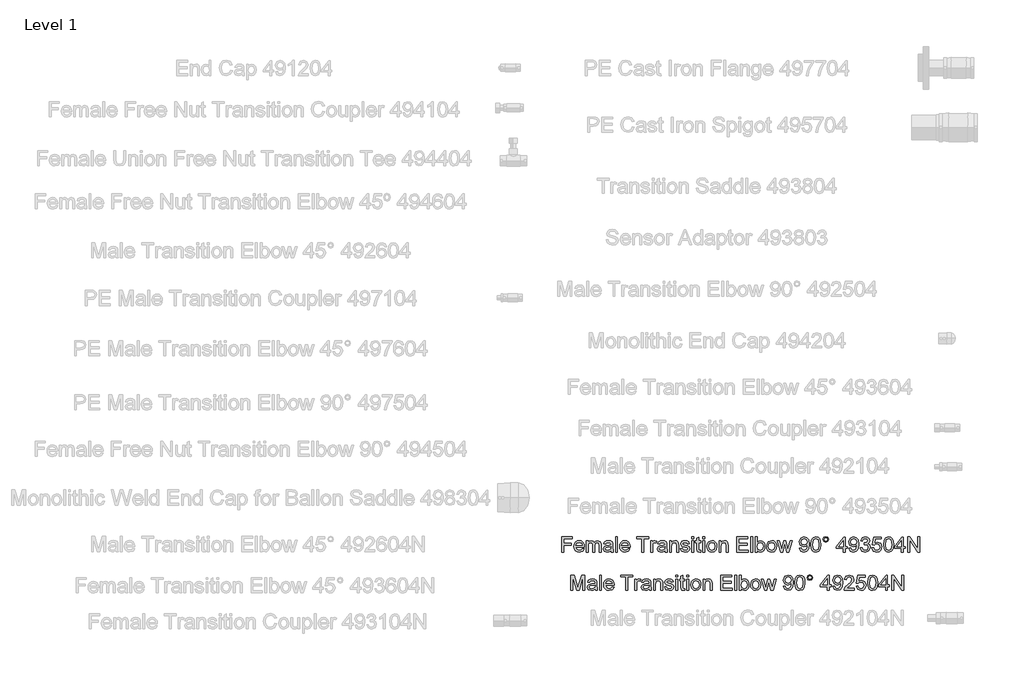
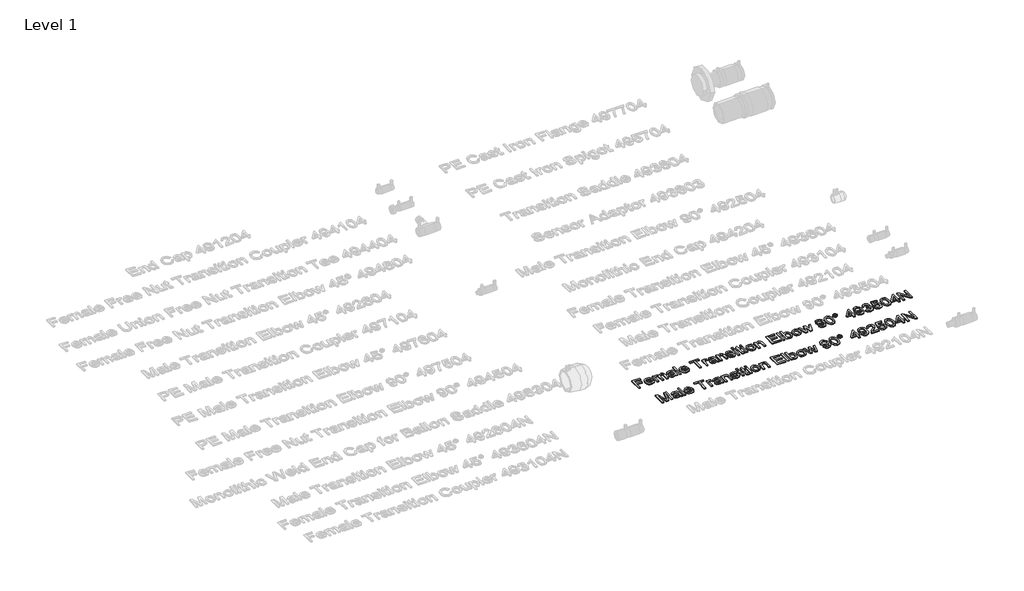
# One storey, part 25 of 38: 2 proxies.
"""IFC4 building model written with IfcOpenShell, lengths in millimetres."""

from ifc_helpers import new_model, si_unit, origin, origin_with_axes, place, context, project, spatial, polyline, outline, extrude, element, save

model = new_model("IFC4")

# Units and contexts
model_context = context("Model", 3, world=origin())
ifc_project = project(units=[si_unit("LENGTHUNIT", "METRE", prefix="MILLI")], contexts=[model_context])

# Site, building, storey
site = spatial("IfcSite", under=ifc_project)
building = spatial("IfcBuilding", under=site)
storey = spatial("IfcBuildingStorey", under=building, Name="Level 1", Elevation=0.0)

# Proxies
placement = place(None, origin())
element("IfcBuildingElementProxy", 1, Name="100 mm Arial", ObjectType="100 mm Arial", at=placement, inside=storey, context=model_context, shape_type="SweptSolid", body=[
    extrude(outline(polyline([(17522.9136045, 3233.0274597), (17522.9136045, 3292.1043828), (17562.6059122, 3292.1043828), (17562.6059122, 3284.7197674), (17530.2982199, 3284.7197674), (17530.2982199, 3267.1813059), (17557.9905276, 3267.1813059), (17557.9905276, 3259.7966905), (17530.2982199, 3259.7966905), (17530.2982199, 3233.0274597), (17522.9136045, 3233.0274597)])), origin_with_axes(), (0.0, 0.0, 1.0), 5.0),
    extrude(outline(polyline([(17602.2116814, 3245.9505366), (17609.4520661, 3245.0274597), (17602.6804314, 3235.4938059), (17590.0674507, 3232.1043828), (17581.4027872, 3233.5665222), (17574.7357199, 3237.9529405), (17570.484518, 3244.9787818), (17569.0674507, 3254.3591905), (17570.4989411, 3264.0551039), (17574.7934122, 3271.3063059), (17581.3703353, 3275.8279405), (17589.6491814, 3277.335152), (17597.6702151, 3275.8315463), (17604.0794699, 3271.3207289), (17608.2819939, 3264.0839501), (17609.6828353, 3254.4024597), (17609.6395661, 3252.4120751), (17576.4520661, 3252.4120751), (17580.6996622, 3242.8207289), (17590.2116814, 3239.4889982), (17597.4520661, 3241.0322674), (17602.2116814, 3245.9505366)]), holes=[polyline([(17576.4520661, 3259.7966905), (17602.2982199, 3259.7966905), (17599.3414891, 3266.4889982), (17589.6203353, 3269.9505366), (17580.5265853, 3267.1885174), (17576.4520661, 3259.7966905)])]), origin_with_axes(), (0.0, 0.0, 1.0), 5.0),
    extrude(outline(polyline([(17617.0674507, 3233.0274597), (17617.0674507, 3276.4120751), (17624.4520661, 3276.4120751), (17624.4520661, 3269.272652), (17629.5289891, 3275.1212097), (17636.7549507, 3277.335152), (17644.1539891, 3275.0779405), (17648.2212968, 3268.7534213), (17653.9833161, 3275.1897193), (17661.2597584, 3277.335152), (17670.9160084, 3273.7654405), (17674.2982199, 3262.7678443), (17674.2982199, 3233.0274597), (17666.9136045, 3233.0274597), (17666.9136045, 3259.5947674), (17666.2285084, 3265.7606328), (17663.7477391, 3268.7966905), (17659.5289891, 3269.9505366), (17652.2669699, 3266.9938059), (17649.375143, 3257.5178443), (17649.375143, 3233.0274597), (17641.9905276, 3233.0274597), (17641.9905276, 3260.4168828), (17640.281393, 3267.5707289), (17634.6780276, 3269.9505366), (17629.2116814, 3268.3639982), (17625.5770661, 3263.7197674), (17624.4520661, 3254.9072674), (17624.4520661, 3233.0274597), (17617.0674507, 3233.0274597)])), origin_with_axes(), (0.0, 0.0, 1.0), 5.0),
    extrude(outline(polyline([(17713.0674507, 3238.5659213), (17705.906393, 3233.5611136), (17697.9953353, 3232.1043828), (17687.2717776, 3235.6091905), (17683.5289891, 3244.5659213), (17684.9424507, 3250.4072674), (17688.656393, 3254.647652), (17693.8270661, 3257.0707289), (17700.2164891, 3258.1813059), (17713.0241814, 3260.7197674), (17713.0674507, 3262.3639982), (17711.0337968, 3267.8159213), (17702.8703353, 3269.9505366), (17695.3991814, 3268.5298636), (17691.8366814, 3263.4889982), (17684.4520661, 3264.4120751), (17687.6467776, 3271.6236136), (17694.0794699, 3275.8495751), (17703.8222584, 3277.335152), (17712.7717776, 3276.022652), (17717.8270661, 3272.7269789), (17720.0914891, 3267.7149597), (17720.4520661, 3261.2534213), (17720.4520661, 3252.0659213), (17720.8270661, 3239.2365943), (17722.2982199, 3233.0274597), (17714.9136045, 3233.0274597), (17713.0674507, 3238.5659213)]), holes=[polyline([(17713.0674507, 3253.335152), (17701.1539891, 3251.0707289), (17694.8006237, 3249.8736136), (17691.9232199, 3247.9264982), (17690.9136045, 3245.085152), (17693.1131237, 3241.0899597), (17699.5674507, 3239.4889982), (17707.0386045, 3241.2558251), (17711.8559122, 3245.5322674), (17713.0241814, 3251.2438059), (17713.0674507, 3253.335152)])]), origin_with_axes(), (0.0, 0.0, 1.0), 5.0),
    extrude(outline(polyline([(17730.6059122, 3233.0274597), (17730.6059122, 3292.1043828), (17737.9905276, 3292.1043828), (17737.9905276, 3233.0274597), (17730.6059122, 3233.0274597)])), origin_with_axes(), (0.0, 0.0, 1.0), 5.0),
    extrude(outline(polyline([(17779.4424507, 3245.9505366), (17786.6828353, 3245.0274597), (17779.9112007, 3235.4938059), (17767.2982199, 3232.1043828), (17758.6335564, 3233.5665222), (17751.9664891, 3237.9529405), (17747.7152872, 3244.9787818), (17746.2982199, 3254.3591905), (17747.7297103, 3264.0551039), (17752.0241814, 3271.3063059), (17758.6011045, 3275.8279405), (17766.8799507, 3277.335152), (17774.9009843, 3275.8315463), (17781.3102391, 3271.3207289), (17785.5127632, 3264.0839501), (17786.9136045, 3254.4024597), (17786.8703353, 3252.4120751), (17753.6828353, 3252.4120751), (17757.9304314, 3242.8207289), (17767.4424507, 3239.4889982), (17774.6828353, 3241.0322674), (17779.4424507, 3245.9505366)]), holes=[polyline([(17753.6828353, 3259.7966905), (17779.5289891, 3259.7966905), (17776.5722584, 3266.4889982), (17766.8511045, 3269.9505366), (17757.7573545, 3267.1885174), (17753.6828353, 3259.7966905)])]), origin_with_axes(), (0.0, 0.0, 1.0), 5.0),
    extrude(outline(polyline([(17833.0674507, 3233.0274597), (17833.0674507, 3284.7197674), (17813.6828353, 3284.7197674), (17813.6828353, 3292.1043828), (17859.8366814, 3292.1043828), (17859.8366814, 3284.7197674), (17840.4520661, 3284.7197674), (17840.4520661, 3233.0274597), (17833.0674507, 3233.0274597)])), origin_with_axes(), (0.0, 0.0, 1.0), 5.0),
    extrude(outline(polyline([(17867.2212968, 3233.0274597), (17867.2212968, 3276.4120751), (17873.6828353, 3276.4120751), (17873.6828353, 3269.9938059), (17878.2693737, 3275.9072674), (17882.8847584, 3277.335152), (17890.2982199, 3275.0563059), (17887.8318737, 3268.4361136), (17882.6395661, 3269.9505366), (17878.4640853, 3268.4938059), (17875.8030276, 3264.4553443), (17874.6059122, 3255.8303443), (17874.6059122, 3233.0274597), (17867.2212968, 3233.0274597)])), origin_with_axes(), (0.0, 0.0, 1.0), 5.0),
    extrude(outline(polyline([(17922.6059122, 3238.5659213), (17915.4448545, 3233.5611136), (17907.5337968, 3232.1043828), (17896.8102391, 3235.6091905), (17893.0674507, 3244.5659213), (17894.4809122, 3250.4072674), (17898.1948545, 3254.647652), (17903.3655276, 3257.0707289), (17909.7549507, 3258.1813059), (17922.562643, 3260.7197674), (17922.6059122, 3262.3639982), (17920.5722584, 3267.8159213), (17912.4087968, 3269.9505366), (17904.937643, 3268.5298636), (17901.375143, 3263.4889982), (17893.9905276, 3264.4120751), (17897.1852391, 3271.6236136), (17903.6179314, 3275.8495751), (17913.3607199, 3277.335152), (17922.3102391, 3276.022652), (17927.3655276, 3272.7269789), (17929.6299507, 3267.7149597), (17929.9905276, 3261.2534213), (17929.9905276, 3252.0659213), (17930.3655276, 3239.2365943), (17931.8366814, 3233.0274597), (17924.4520661, 3233.0274597), (17922.6059122, 3238.5659213)]), holes=[polyline([(17922.6059122, 3253.335152), (17910.6924507, 3251.0707289), (17904.3390853, 3249.8736136), (17901.4616814, 3247.9264982), (17900.4520661, 3245.085152), (17902.6515853, 3241.0899597), (17909.1059122, 3239.4889982), (17916.5770661, 3241.2558251), (17921.3943737, 3245.5322674), (17922.562643, 3251.2438059), (17922.6059122, 3253.335152)])]), origin_with_axes(), (0.0, 0.0, 1.0), 5.0),
    extrude(outline(polyline([(17940.1443737, 3233.0274597), (17940.1443737, 3276.4120751), (17947.5289891, 3276.4120751), (17947.5289891, 3270.3543828), (17953.1756237, 3275.5899597), (17960.8847584, 3277.335152), (17967.8583161, 3275.928902), (17972.6179314, 3272.2365943), (17974.8318737, 3266.8063059), (17975.2212968, 3259.6668828), (17975.2212968, 3233.0274597), (17967.8366814, 3233.0274597), (17967.8366814, 3258.6716905), (17966.9857199, 3265.2053443), (17963.9785084, 3268.6596713), (17958.9087968, 3269.9505366), (17950.8967776, 3267.0514982), (17947.5289891, 3256.0466905), (17947.5289891, 3233.0274597), (17940.1443737, 3233.0274597)])), origin_with_axes(), (0.0, 0.0, 1.0), 5.0),
    extrude(outline(polyline([(17982.6059122, 3245.9505366), (17989.9905276, 3246.8736136), (17993.4087968, 3241.3928443), (18001.2405276, 3239.4889982), (18008.7693737, 3241.2341905), (18011.2212968, 3245.3303443), (18008.7549507, 3248.647652), (18001.1539891, 3250.7534213), (17990.0337968, 3254.366402), (17985.1804314, 3258.585152), (17983.5289891, 3264.5418828), (17984.8559122, 3270.0442866), (17988.4761045, 3274.2486136), (17993.1708161, 3276.4337097), (17999.5241814, 3277.335152), (18008.5097584, 3275.8856328), (18014.2212968, 3271.9625559), (18016.7597584, 3265.335152), (18009.375143, 3264.4120751), (18006.5987007, 3268.4865943), (18000.1011045, 3269.9505366), (17993.0337968, 3268.5514982), (17990.9136045, 3265.2918828), (17991.7934122, 3263.1428443), (17994.5482199, 3261.5130366), (18000.9087968, 3259.9409213), (18011.7477391, 3256.4649597), (18016.781393, 3252.5274597), (18018.6059122, 3246.1091905), (18016.4640853, 3239.0418828), (18010.2837968, 3233.9144789), (18001.1395661, 3232.1043828), (17988.2597584, 3235.5947674), (17982.6059122, 3245.9505366)])), origin_with_axes(), (0.0, 0.0, 1.0), 5.0),
    extrude(outline(polyline([(18026.9136045, 3233.0274597), (18026.9136045, 3276.4120751), (18034.2982199, 3276.4120751), (18034.2982199, 3233.0274597), (18026.9136045, 3233.0274597)])), origin_with_axes(), (0.0, 0.0, 1.0), 5.0),
    extrude(outline(polyline([(18026.9136045, 3284.7197674), (18026.9136045, 3292.1043828), (18034.2982199, 3292.1043828), (18034.2982199, 3284.7197674), (18026.9136045, 3284.7197674)])), origin_with_axes(), (0.0, 0.0, 1.0), 5.0),
    extrude(outline(polyline([(18061.0674507, 3239.1861136), (18061.9905276, 3232.8111136), (18056.4664891, 3232.1043828), (18050.2789891, 3233.3303443), (18047.1924507, 3236.5466905), (18046.2982199, 3244.9264982), (18046.2982199, 3269.0274597), (18040.7597584, 3269.0274597), (18040.7597584, 3276.4120751), (18046.2982199, 3276.4120751), (18046.2982199, 3286.9553443), (18053.6828353, 3291.2966905), (18053.6828353, 3276.4120751), (18061.0674507, 3276.4120751), (18061.0674507, 3269.0274597), (18053.6828353, 3269.0274597), (18053.6828353, 3245.1428443), (18054.0722584, 3241.335152), (18055.3342776, 3239.9865943), (18057.8511045, 3239.4889982), (18061.0674507, 3239.1861136)])), origin_with_axes(), (0.0, 0.0, 1.0), 5.0),
    extrude(outline(polyline([(18068.4520661, 3233.0274597), (18068.4520661, 3276.4120751), (18075.8366814, 3276.4120751), (18075.8366814, 3233.0274597), (18068.4520661, 3233.0274597)])), origin_with_axes(), (0.0, 0.0, 1.0), 5.0),
    extrude(outline(polyline([(18068.4520661, 3284.7197674), (18068.4520661, 3292.1043828), (18075.8366814, 3292.1043828), (18075.8366814, 3284.7197674), (18068.4520661, 3284.7197674)])), origin_with_axes(), (0.0, 0.0, 1.0), 5.0),
    extrude(outline(polyline([(18085.0674507, 3254.7197674), (18086.6648064, 3265.1801039), (18091.4568737, 3272.5322674), (18104.4664891, 3277.335152), (18112.2243016, 3275.8730126), (18118.4208161, 3271.4865943), (18122.4827151, 3264.5220511), (18123.8366814, 3255.3255366), (18121.4424507, 3242.1861136), (18114.468893, 3234.7510174), (18104.4664891, 3232.1043828), (18096.6149266, 3233.5611136), (18090.4256237, 3237.9313059), (18086.4069939, 3245.0418828), (18085.0674507, 3254.7197674)]), holes=[polyline([(18092.4520661, 3254.7341905), (18095.8703353, 3243.2894789), (18104.4664891, 3239.4889982), (18113.0337968, 3243.3111136), (18116.4520661, 3254.9649597), (18113.0121622, 3266.1500559), (18104.4664891, 3269.9505366), (18095.8703353, 3266.1644789), (18092.4520661, 3254.7341905)])]), origin_with_axes(), (0.0, 0.0, 1.0), 5.0),
    extrude(outline(polyline([(18132.1443737, 3233.0274597), (18132.1443737, 3276.4120751), (18139.5289891, 3276.4120751), (18139.5289891, 3270.3543828), (18145.1756237, 3275.5899597), (18152.8847584, 3277.335152), (18159.8583161, 3275.928902), (18164.6179314, 3272.2365943), (18166.8318737, 3266.8063059), (18167.2212968, 3259.6668828), (18167.2212968, 3233.0274597), (18159.8366814, 3233.0274597), (18159.8366814, 3258.6716905), (18158.9857199, 3265.2053443), (18155.9785084, 3268.6596713), (18150.9087968, 3269.9505366), (18142.8967776, 3267.0514982), (18139.5289891, 3256.0466905), (18139.5289891, 3233.0274597), (18132.1443737, 3233.0274597)])), origin_with_axes(), (0.0, 0.0, 1.0), 5.0),
    extrude(outline(polyline([(18201.375143, 3233.0274597), (18201.375143, 3292.1043828), (18243.8366814, 3292.1043828), (18243.8366814, 3284.7197674), (18208.7597584, 3284.7197674), (18208.7597584, 3267.1813059), (18241.9905276, 3267.1813059), (18241.9905276, 3259.7966905), (18208.7597584, 3259.7966905), (18208.7597584, 3240.4120751), (18244.7597584, 3240.4120751), (18244.7597584, 3233.0274597), (18201.375143, 3233.0274597)])), origin_with_axes(), (0.0, 0.0, 1.0), 5.0),
    extrude(outline(polyline([(18254.9136045, 3233.0274597), (18254.9136045, 3292.1043828), (18262.2982199, 3292.1043828), (18262.2982199, 3233.0274597), (18254.9136045, 3233.0274597)])), origin_with_axes(), (0.0, 0.0, 1.0), 5.0),
    extrude(outline(polyline([(18280.7597584, 3233.0274597), (18273.375143, 3233.0274597), (18273.375143, 3292.1043828), (18280.7597584, 3292.1043828), (18280.7597584, 3270.1957289), (18285.9304314, 3275.5502963), (18292.3559122, 3277.335152), (18299.7549507, 3275.7269789), (18305.4953353, 3271.2053443), (18309.0217776, 3264.1740943), (18310.2982199, 3255.3688059), (18308.9767055, 3245.5106328), (18305.0121622, 3238.1764982), (18299.1942536, 3233.6224116), (18292.312643, 3232.1043828), (18285.7465372, 3234.0623155), (18280.7597584, 3239.9361136), (18280.7597584, 3233.0274597)]), holes=[polyline([(18280.7597584, 3255.022652), (18282.7789891, 3244.6957289), (18291.6780276, 3239.4889982), (18299.5818737, 3243.3255366), (18302.9136045, 3254.7630366), (18299.718893, 3266.2438059), (18291.9953353, 3269.9505366), (18284.0914891, 3266.1139982), (18280.7597584, 3255.022652)])]), origin_with_axes(), (0.0, 0.0, 1.0), 5.0),
    extrude(outline(polyline([(18316.7597584, 3254.7197674), (18318.3571141, 3265.1801039), (18323.1491814, 3272.5322674), (18336.1587968, 3277.335152), (18343.9166093, 3275.8730126), (18350.1131237, 3271.4865943), (18354.1750228, 3264.5220511), (18355.5289891, 3255.3255366), (18353.1347584, 3242.1861136), (18346.1612007, 3234.7510174), (18336.1587968, 3232.1043828), (18328.3072343, 3233.5611136), (18322.1179314, 3237.9313059), (18318.0993016, 3245.0418828), (18316.7597584, 3254.7197674)]), holes=[polyline([(18324.1443737, 3254.7341905), (18327.562643, 3243.2894789), (18336.1587968, 3239.4889982), (18344.7261045, 3243.3111136), (18348.1443737, 3254.9649597), (18344.7044699, 3266.1500559), (18336.1587968, 3269.9505366), (18327.562643, 3266.1644789), (18324.1443737, 3254.7341905)])]), origin_with_axes(), (0.0, 0.0, 1.0), 5.0),
    extrude(outline(polyline([(18371.0337968, 3233.0274597), (18357.8366814, 3276.4120751), (18365.5097584, 3276.4120751), (18372.9953353, 3251.0995751), (18375.2309122, 3242.0563059), (18377.062643, 3250.7678443), (18383.0193737, 3276.4120751), (18391.8174507, 3276.4120751), (18397.7453353, 3250.8399597), (18399.375143, 3242.9505366), (18401.7116814, 3251.272652), (18409.2116814, 3276.4120751), (18416.9136045, 3276.4120751), (18403.6155276, 3233.0274597), (18394.687643, 3233.0274597), (18389.0193737, 3258.4697674), (18387.375143, 3266.4024597), (18380.062643, 3233.0274597), (18371.0337968, 3233.0274597)])), origin_with_axes(), (0.0, 0.0, 1.0), 5.0),
    extrude(outline(polyline([(18444.1443737, 3247.7966905), (18451.5289891, 3248.7197674), (18454.8462968, 3241.6740943), (18461.1347584, 3239.4889982), (18467.1131237, 3240.8952482), (18471.1660084, 3244.6524597), (18473.5818737, 3251.0707289), (18474.6491814, 3259.6380366), (18468.6996622, 3255.4841905), (18460.6011045, 3253.335152), (18448.2621622, 3258.585152), (18443.2212968, 3272.4168828), (18448.5073545, 3286.6957289), (18461.7549507, 3292.1043828), (18472.2765853, 3289.0178443), (18479.5169699, 3280.2197674), (18481.9905276, 3263.6909213), (18479.5241814, 3245.7558251), (18472.1900468, 3235.5947674), (18460.7886045, 3232.1043828), (18449.437643, 3236.2221713), (18444.1443737, 3247.7966905)]), holes=[polyline([(18474.6059122, 3272.5899597), (18471.4184122, 3281.4457289), (18462.9520661, 3284.7197674), (18454.0674507, 3281.1933251), (18450.6059122, 3272.0563059), (18453.8799507, 3263.8712097), (18462.750143, 3260.7197674), (18471.2669699, 3263.8712097), (18474.6059122, 3272.5899597)])]), origin_with_axes(), (0.0, 0.0, 1.0), 5.0),
    extrude(outline(polyline([(18488.4520661, 3262.0899597), (18490.6227391, 3279.0875559), (18497.0698545, 3288.8880366), (18507.8366814, 3292.1043828), (18516.4616814, 3290.2005366), (18522.4184122, 3284.7125559), (18525.8799507, 3275.9721713), (18527.2212968, 3262.0899597), (18525.0722584, 3245.1644789), (18518.6467776, 3235.3423636), (18507.8366814, 3232.1043828), (18500.1636045, 3233.5106328), (18494.3366814, 3237.7293828), (18489.9232199, 3247.7209693), (18488.4520661, 3262.0899597)]), holes=[polyline([(18495.8366814, 3262.1043828), (18499.2982199, 3243.7654405), (18507.8366814, 3239.4889982), (18516.375143, 3243.7798636), (18519.8366814, 3262.1043828), (18516.4905276, 3280.2341905), (18507.750143, 3284.7197674), (18499.4136045, 3280.7678443), (18495.8366814, 3262.1043828)])]), origin_with_axes(), (0.0, 0.0, 1.0), 5.0),
    extrude(outline(polyline([(18535.5289891, 3281.9649597), (18538.781393, 3289.7966905), (18546.5914891, 3293.0274597), (18554.4520661, 3289.7966905), (18557.6828353, 3281.9649597), (18554.4304314, 3274.1260174), (18546.5914891, 3270.8736136), (18538.781393, 3274.1043828), (18535.5289891, 3281.9649597)]), holes=[polyline([(18540.1443737, 3281.9505366), (18542.0410084, 3277.3784213), (18546.6203353, 3275.4889982), (18551.1708161, 3277.3784213), (18553.0674507, 3281.9505366), (18551.1708161, 3286.522652), (18546.6203353, 3288.4120751), (18542.0410084, 3286.522652), (18540.1443737, 3281.9505366)])]), origin_with_axes(), (0.0, 0.0, 1.0), 5.0),
    extrude(outline(polyline([(18613.9905276, 3233.0274597), (18613.9905276, 3246.8736136), (18587.2212968, 3246.8736136), (18587.2212968, 3254.2582289), (18615.8366814, 3291.1813059), (18621.375143, 3291.1813059), (18621.375143, 3254.2582289), (18628.7597584, 3254.2582289), (18628.7597584, 3246.8736136), (18621.375143, 3246.8736136), (18621.375143, 3233.0274597), (18613.9905276, 3233.0274597)]), holes=[polyline([(18613.9905276, 3254.2582289), (18613.9905276, 3277.0755366), (18596.3078353, 3254.2582289), (18613.9905276, 3254.2582289)])]), origin_with_axes(), (0.0, 0.0, 1.0), 5.0),
    extrude(outline(polyline([(18636.1443737, 3247.7966905), (18643.5289891, 3248.7197674), (18646.8462968, 3241.6740943), (18653.1347584, 3239.4889982), (18659.1131237, 3240.8952482), (18663.1660084, 3244.6524597), (18665.5818737, 3251.0707289), (18666.6491814, 3259.6380366), (18660.6996622, 3255.4841905), (18652.6011045, 3253.335152), (18640.2621622, 3258.585152), (18635.2212968, 3272.4168828), (18640.5073545, 3286.6957289), (18653.7549507, 3292.1043828), (18664.2765853, 3289.0178443), (18671.5169699, 3280.2197674), (18673.9905276, 3263.6909213), (18671.5241814, 3245.7558251), (18664.1900468, 3235.5947674), (18652.7886045, 3232.1043828), (18641.437643, 3236.2221713), (18636.1443737, 3247.7966905)]), holes=[polyline([(18666.6059122, 3272.5899597), (18663.4184122, 3281.4457289), (18654.9520661, 3284.7197674), (18646.0674507, 3281.1933251), (18642.6059122, 3272.0563059), (18645.8799507, 3263.8712097), (18654.750143, 3260.7197674), (18663.2669699, 3263.8712097), (18666.6059122, 3272.5899597)])]), origin_with_axes(), (0.0, 0.0, 1.0), 5.0),
    extrude(outline(polyline([(18680.4520661, 3248.7197674), (18687.8366814, 3249.6428443), (18691.9112007, 3241.8688059), (18699.5337968, 3239.4889982), (18708.5049507, 3242.7630366), (18711.8366814, 3250.8688059), (18708.5337968, 3258.5058251), (18700.1395661, 3261.5274597), (18694.9616814, 3260.7197674), (18695.7837968, 3268.1043828), (18705.3462968, 3270.1380366), (18709.0674507, 3276.6572674), (18706.3703353, 3282.4337097), (18699.4184122, 3284.7197674), (18692.3799507, 3282.4120751), (18688.7597584, 3275.4889982), (18681.375143, 3276.4120751), (18687.4184122, 3287.9938059), (18699.1587968, 3292.1043828), (18708.0650468, 3290.0779405), (18714.2958161, 3284.5394789), (18716.4520661, 3277.0899597), (18714.4039891, 3270.2822674), (18708.3462968, 3265.3928443), (18716.3943737, 3260.3447674), (18719.2212968, 3250.7389982), (18713.5674507, 3237.5274597), (18699.2741814, 3232.1043828), (18686.3222584, 3236.7341905), (18680.4520661, 3248.7197674)])), origin_with_axes(), (0.0, 0.0, 1.0), 5.0),
    extrude(outline(polyline([(18725.6828353, 3248.7197674), (18733.0674507, 3249.6428443), (18736.7886045, 3242.0346713), (18744.5049507, 3239.4889982), (18753.7645661, 3243.0298636), (18757.0674507, 3252.4264982), (18753.9737007, 3261.1957289), (18744.6203353, 3264.4120751), (18738.1371622, 3263.1284213), (18733.9905276, 3259.7966905), (18726.6059122, 3260.7197674), (18733.0674507, 3291.1813059), (18761.6828353, 3291.1813059), (18761.6828353, 3283.7966905), (18739.0386045, 3283.7966905), (18735.8799507, 3267.5274597), (18746.6828353, 3271.7966905), (18759.3102391, 3266.5034213), (18764.4520661, 3252.8880366), (18759.8222584, 3239.1861136), (18753.1732199, 3233.8748155), (18744.4761045, 3232.1043828), (18731.4448545, 3236.6548636), (18725.6828353, 3248.7197674)])), origin_with_axes(), (0.0, 0.0, 1.0), 5.0),
    extrude(outline(polyline([(18770.9136045, 3262.0899597), (18773.0842776, 3279.0875559), (18779.531393, 3288.8880366), (18790.2982199, 3292.1043828), (18798.9232199, 3290.2005366), (18804.8799507, 3284.7125559), (18808.3414891, 3275.9721713), (18809.6828353, 3262.0899597), (18807.5337968, 3245.1644789), (18801.1083161, 3235.3423636), (18790.2982199, 3232.1043828), (18782.625143, 3233.5106328), (18776.7982199, 3237.7293828), (18772.3847584, 3247.7209693), (18770.9136045, 3262.0899597)]), holes=[polyline([(18778.2982199, 3262.1043828), (18781.7597584, 3243.7654405), (18790.2982199, 3239.4889982), (18798.8366814, 3243.7798636), (18802.2982199, 3262.1043828), (18798.9520661, 3280.2341905), (18790.2116814, 3284.7197674), (18781.875143, 3280.7678443), (18778.2982199, 3262.1043828)])]), origin_with_axes(), (0.0, 0.0, 1.0), 5.0),
    extrude(outline(polyline([(18840.1443737, 3233.0274597), (18840.1443737, 3246.8736136), (18813.375143, 3246.8736136), (18813.375143, 3254.2582289), (18841.9905276, 3291.1813059), (18847.5289891, 3291.1813059), (18847.5289891, 3254.2582289), (18854.9136045, 3254.2582289), (18854.9136045, 3246.8736136), (18847.5289891, 3246.8736136), (18847.5289891, 3233.0274597), (18840.1443737, 3233.0274597)]), holes=[polyline([(18840.1443737, 3254.2582289), (18840.1443737, 3277.0755366), (18822.4616814, 3254.2582289), (18840.1443737, 3254.2582289)])]), origin_with_axes(), (0.0, 0.0, 1.0), 5.0),
    extrude(outline(polyline([(18864.1443737, 3233.0274597), (18864.1443737, 3292.1043828), (18872.0482199, 3292.1043828), (18902.9136045, 3245.3014982), (18902.9136045, 3292.1043828), (18910.2982199, 3292.1043828), (18910.2982199, 3233.0274597), (18902.3943737, 3233.0274597), (18871.5289891, 3279.8447674), (18871.5289891, 3233.0274597), (18864.1443737, 3233.0274597)])), origin_with_axes(), (0.0, 0.0, 1.0), 5.0),
])
element("IfcBuildingElementProxy", 2, Name="100 mm Arial", ObjectType="100 mm Arial", at=placement, inside=storey, context=model_context, shape_type="SweptSolid", body=[
    extrude(outline(polyline([(17556.9905276, 3084.7258229), (17556.9905276, 3143.802746), (17569.6972584, 3143.802746), (17581.7837968, 3102.1633229), (17584.2212968, 3093.4662075), (17586.8607199, 3102.8844767), (17598.7453353, 3143.802746), (17611.4520661, 3143.802746), (17611.4520661, 3084.7258229), (17604.0674507, 3084.7258229), (17604.0674507, 3136.4181306), (17589.2261045, 3084.7258229), (17579.2164891, 3084.7258229), (17564.375143, 3136.4181306), (17564.375143, 3084.7258229), (17556.9905276, 3084.7258229)])), origin_with_axes(), (0.0, 0.0, 1.0), 5.0),
    extrude(outline(polyline([(17651.1443737, 3090.2642844), (17643.9833161, 3085.2594767), (17636.0722584, 3083.802746), (17625.3487007, 3087.3075536), (17621.6059122, 3096.2642844), (17623.0193737, 3102.1056306), (17626.7333161, 3106.3460152), (17631.9039891, 3108.7690921), (17638.2934122, 3109.879669), (17651.1011045, 3112.4181306), (17651.1443737, 3114.0623613), (17649.1107199, 3119.5142844), (17640.9472584, 3121.6488998), (17633.4761045, 3120.2282267), (17629.9136045, 3115.1873613), (17622.5289891, 3116.1104383), (17625.7237007, 3123.3219767), (17632.156393, 3127.5479383), (17641.8991814, 3129.0335152), (17650.8487007, 3127.7210152), (17655.9039891, 3124.4253421), (17658.1684122, 3119.4133229), (17658.5289891, 3112.9517844), (17658.5289891, 3103.7642844), (17658.9039891, 3090.9349575), (17660.375143, 3084.7258229), (17652.9905276, 3084.7258229), (17651.1443737, 3090.2642844)]), holes=[polyline([(17651.1443737, 3105.0335152), (17639.2309122, 3102.7690921), (17632.8775468, 3101.5719767), (17630.000143, 3099.6248613), (17628.9905276, 3096.7835152), (17631.1900468, 3092.7883229), (17637.6443737, 3091.1873613), (17645.1155276, 3092.9541883), (17649.9328353, 3097.2306306), (17651.1011045, 3102.942169), (17651.1443737, 3105.0335152)])]), origin_with_axes(), (0.0, 0.0, 1.0), 5.0),
    extrude(outline(polyline([(17668.6828353, 3084.7258229), (17668.6828353, 3143.802746), (17676.0674507, 3143.802746), (17676.0674507, 3084.7258229), (17668.6828353, 3084.7258229)])), origin_with_axes(), (0.0, 0.0, 1.0), 5.0),
    extrude(outline(polyline([(17717.5193737, 3097.6488998), (17724.7597584, 3096.7258229), (17717.9881237, 3087.192169), (17705.375143, 3083.802746), (17696.7104795, 3085.2648854), (17690.0434122, 3089.6513036), (17685.7922103, 3096.677145), (17684.375143, 3106.0575536), (17685.8066334, 3115.7534671), (17690.1011045, 3123.004669), (17696.6780276, 3127.5263036), (17704.9568737, 3129.0335152), (17712.9779074, 3127.5299094), (17719.3871622, 3123.0190921), (17723.5896862, 3115.7823133), (17724.9905276, 3106.1008229), (17724.9472584, 3104.1104383), (17691.7597584, 3104.1104383), (17696.0073545, 3094.5190921), (17705.5193737, 3091.1873613), (17712.7597584, 3092.7306306), (17717.5193737, 3097.6488998)]), holes=[polyline([(17691.7597584, 3111.4950536), (17717.6059122, 3111.4950536), (17714.6491814, 3118.1873613), (17704.9280276, 3121.6488998), (17695.8342776, 3118.8868806), (17691.7597584, 3111.4950536)])]), origin_with_axes(), (0.0, 0.0, 1.0), 5.0),
    extrude(outline(polyline([(17771.1443737, 3084.7258229), (17771.1443737, 3136.4181306), (17751.7597584, 3136.4181306), (17751.7597584, 3143.802746), (17797.9136045, 3143.802746), (17797.9136045, 3136.4181306), (17778.5289891, 3136.4181306), (17778.5289891, 3084.7258229), (17771.1443737, 3084.7258229)])), origin_with_axes(), (0.0, 0.0, 1.0), 5.0),
    extrude(outline(polyline([(17805.2982199, 3084.7258229), (17805.2982199, 3128.1104383), (17811.7597584, 3128.1104383), (17811.7597584, 3121.692169), (17816.3462968, 3127.6056306), (17820.9616814, 3129.0335152), (17828.375143, 3126.754669), (17825.9087968, 3120.1344767), (17820.7164891, 3121.6488998), (17816.5410084, 3120.192169), (17813.8799507, 3116.1537075), (17812.6828353, 3107.5287075), (17812.6828353, 3084.7258229), (17805.2982199, 3084.7258229)])), origin_with_axes(), (0.0, 0.0, 1.0), 5.0),
    extrude(outline(polyline([(17860.6828353, 3090.2642844), (17853.5217776, 3085.2594767), (17845.6107199, 3083.802746), (17834.8871622, 3087.3075536), (17831.1443737, 3096.2642844), (17832.5578353, 3102.1056306), (17836.2717776, 3106.3460152), (17841.4424507, 3108.7690921), (17847.8318737, 3109.879669), (17860.6395661, 3112.4181306), (17860.6828353, 3114.0623613), (17858.6491814, 3119.5142844), (17850.4857199, 3121.6488998), (17843.0145661, 3120.2282267), (17839.4520661, 3115.1873613), (17832.0674507, 3116.1104383), (17835.2621622, 3123.3219767), (17841.6948545, 3127.5479383), (17851.437643, 3129.0335152), (17860.3871622, 3127.7210152), (17865.4424507, 3124.4253421), (17867.7068737, 3119.4133229), (17868.0674507, 3112.9517844), (17868.0674507, 3103.7642844), (17868.4424507, 3090.9349575), (17869.9136045, 3084.7258229), (17862.5289891, 3084.7258229), (17860.6828353, 3090.2642844)]), holes=[polyline([(17860.6828353, 3105.0335152), (17848.7693737, 3102.7690921), (17842.4160084, 3101.5719767), (17839.5386045, 3099.6248613), (17838.5289891, 3096.7835152), (17840.7285084, 3092.7883229), (17847.1828353, 3091.1873613), (17854.6539891, 3092.9541883), (17859.4712968, 3097.2306306), (17860.6395661, 3102.942169), (17860.6828353, 3105.0335152)])]), origin_with_axes(), (0.0, 0.0, 1.0), 5.0),
    extrude(outline(polyline([(17878.2212968, 3084.7258229), (17878.2212968, 3128.1104383), (17885.6059122, 3128.1104383), (17885.6059122, 3122.052746), (17891.2525468, 3127.2883229), (17898.9616814, 3129.0335152), (17905.9352391, 3127.6272652), (17910.6948545, 3123.9349575), (17912.9087968, 3118.504669), (17913.2982199, 3111.365246), (17913.2982199, 3084.7258229), (17905.9136045, 3084.7258229), (17905.9136045, 3110.3700536), (17905.062643, 3116.9037075), (17902.0554314, 3120.3580344), (17896.9857199, 3121.6488998), (17888.9737007, 3118.7498613), (17885.6059122, 3107.7450536), (17885.6059122, 3084.7258229), (17878.2212968, 3084.7258229)])), origin_with_axes(), (0.0, 0.0, 1.0), 5.0),
    extrude(outline(polyline([(17920.6828353, 3097.6488998), (17928.0674507, 3098.5719767), (17931.4857199, 3093.0912075), (17939.3174507, 3091.1873613), (17946.8462968, 3092.9325536), (17949.2982199, 3097.0287075), (17946.8318737, 3100.3460152), (17939.2309122, 3102.4517844), (17928.1107199, 3106.0647652), (17923.2573545, 3110.2835152), (17921.6059122, 3116.240246), (17922.9328353, 3121.7426498), (17926.5530276, 3125.9469767), (17931.2477391, 3128.1320729), (17937.6011045, 3129.0335152), (17946.5866814, 3127.583996), (17952.2982199, 3123.660919), (17954.8366814, 3117.0335152), (17947.4520661, 3116.1104383), (17944.6756237, 3120.1849575), (17938.1780276, 3121.6488998), (17931.1107199, 3120.2498613), (17928.9905276, 3116.990246), (17929.8703353, 3114.8412075), (17932.625143, 3113.2113998), (17938.9857199, 3111.6392844), (17949.8246622, 3108.1633229), (17954.8583161, 3104.2258229), (17956.6828353, 3097.8075536), (17954.5410084, 3090.740246), (17948.3607199, 3085.6128421), (17939.2164891, 3083.802746), (17926.3366814, 3087.2931306), (17920.6828353, 3097.6488998)])), origin_with_axes(), (0.0, 0.0, 1.0), 5.0),
    extrude(outline(polyline([(17964.9905276, 3136.4181306), (17964.9905276, 3143.802746), (17972.375143, 3143.802746), (17972.375143, 3136.4181306), (17964.9905276, 3136.4181306)])), origin_with_axes(), (0.0, 0.0, 1.0), 5.0),
    extrude(outline(polyline([(17964.9905276, 3084.7258229), (17964.9905276, 3128.1104383), (17972.375143, 3128.1104383), (17972.375143, 3084.7258229), (17964.9905276, 3084.7258229)])), origin_with_axes(), (0.0, 0.0, 1.0), 5.0),
    extrude(outline(polyline([(17999.1443737, 3090.8844767), (18000.0674507, 3084.5094767), (17994.5434122, 3083.802746), (17988.3559122, 3085.0287075), (17985.2693737, 3088.2450536), (17984.375143, 3096.6248613), (17984.375143, 3120.7258229), (17978.8366814, 3120.7258229), (17978.8366814, 3128.1104383), (17984.375143, 3128.1104383), (17984.375143, 3138.6537075), (17991.7597584, 3142.9950536), (17991.7597584, 3128.1104383), (17999.1443737, 3128.1104383), (17999.1443737, 3120.7258229), (17991.7597584, 3120.7258229), (17991.7597584, 3096.8412075), (17992.1491814, 3093.0335152), (17993.4112007, 3091.6849575), (17995.9280276, 3091.1873613), (17999.1443737, 3090.8844767)])), origin_with_axes(), (0.0, 0.0, 1.0), 5.0),
    extrude(outline(polyline([(18006.5289891, 3136.4181306), (18006.5289891, 3143.802746), (18013.9136045, 3143.802746), (18013.9136045, 3136.4181306), (18006.5289891, 3136.4181306)])), origin_with_axes(), (0.0, 0.0, 1.0), 5.0),
    extrude(outline(polyline([(18006.5289891, 3084.7258229), (18006.5289891, 3128.1104383), (18013.9136045, 3128.1104383), (18013.9136045, 3084.7258229), (18006.5289891, 3084.7258229)])), origin_with_axes(), (0.0, 0.0, 1.0), 5.0),
    extrude(outline(polyline([(18023.1443737, 3106.4181306), (18024.7417295, 3116.8784671), (18029.5337968, 3124.2306306), (18042.5434122, 3129.0335152), (18050.3012247, 3127.5713758), (18056.4977391, 3123.1849575), (18060.5596382, 3116.2204142), (18061.9136045, 3107.0238998), (18059.5193737, 3093.8844767), (18052.5458161, 3086.4493806), (18042.5434122, 3083.802746), (18034.6918497, 3085.2594767), (18028.5025468, 3089.629669), (18024.483917, 3096.740246), (18023.1443737, 3106.4181306)]), holes=[polyline([(18030.5289891, 3106.4325536), (18033.9472584, 3094.9878421), (18042.5434122, 3091.1873613), (18051.1107199, 3095.0094767), (18054.5289891, 3106.6633229), (18051.0890853, 3117.848419), (18042.5434122, 3121.6488998), (18033.9472584, 3117.8628421), (18030.5289891, 3106.4325536)])]), origin_with_axes(), (0.0, 0.0, 1.0), 5.0),
    extrude(outline(polyline([(18070.2212968, 3084.7258229), (18070.2212968, 3128.1104383), (18077.6059122, 3128.1104383), (18077.6059122, 3122.052746), (18083.2525468, 3127.2883229), (18090.9616814, 3129.0335152), (18097.9352391, 3127.6272652), (18102.6948545, 3123.9349575), (18104.9087968, 3118.504669), (18105.2982199, 3111.365246), (18105.2982199, 3084.7258229), (18097.9136045, 3084.7258229), (18097.9136045, 3110.3700536), (18097.062643, 3116.9037075), (18094.0554314, 3120.3580344), (18088.9857199, 3121.6488998), (18080.9737007, 3118.7498613), (18077.6059122, 3107.7450536), (18077.6059122, 3084.7258229), (18070.2212968, 3084.7258229)])), origin_with_axes(), (0.0, 0.0, 1.0), 5.0),
    extrude(outline(polyline([(18139.4520661, 3084.7258229), (18139.4520661, 3143.802746), (18181.9136045, 3143.802746), (18181.9136045, 3136.4181306), (18146.8366814, 3136.4181306), (18146.8366814, 3118.879669), (18180.0674507, 3118.879669), (18180.0674507, 3111.4950536), (18146.8366814, 3111.4950536), (18146.8366814, 3092.1104383), (18182.8366814, 3092.1104383), (18182.8366814, 3084.7258229), (18139.4520661, 3084.7258229)])), origin_with_axes(), (0.0, 0.0, 1.0), 5.0),
    extrude(outline(polyline([(18192.9905276, 3084.7258229), (18192.9905276, 3143.802746), (18200.375143, 3143.802746), (18200.375143, 3084.7258229), (18192.9905276, 3084.7258229)])), origin_with_axes(), (0.0, 0.0, 1.0), 5.0),
    extrude(outline(polyline([(18218.8366814, 3084.7258229), (18211.4520661, 3084.7258229), (18211.4520661, 3143.802746), (18218.8366814, 3143.802746), (18218.8366814, 3121.8940921), (18224.0073545, 3127.2486594), (18230.4328353, 3129.0335152), (18237.8318737, 3127.4253421), (18243.5722584, 3122.9037075), (18247.0987007, 3115.8724575), (18248.375143, 3107.067169), (18247.0536286, 3097.208996), (18243.0890853, 3089.8748613), (18237.2711766, 3085.3207748), (18230.3895661, 3083.802746), (18223.8234603, 3085.7606786), (18218.8366814, 3091.6344767), (18218.8366814, 3084.7258229)]), holes=[polyline([(18218.8366814, 3106.7210152), (18220.8559122, 3096.3940921), (18229.7549507, 3091.1873613), (18237.6587968, 3095.0238998), (18240.9905276, 3106.4613998), (18237.7958161, 3117.942169), (18230.0722584, 3121.6488998), (18222.1684122, 3117.8123613), (18218.8366814, 3106.7210152)])]), origin_with_axes(), (0.0, 0.0, 1.0), 5.0),
    extrude(outline(polyline([(18254.8366814, 3106.4181306), (18256.4340372, 3116.8784671), (18261.2261045, 3124.2306306), (18274.2357199, 3129.0335152), (18281.9935324, 3127.5713758), (18288.1900468, 3123.1849575), (18292.2519459, 3116.2204142), (18293.6059122, 3107.0238998), (18291.2116814, 3093.8844767), (18284.2381237, 3086.4493806), (18274.2357199, 3083.802746), (18266.3841574, 3085.2594767), (18260.1948545, 3089.629669), (18256.1762247, 3096.740246), (18254.8366814, 3106.4181306)]), holes=[polyline([(18262.2212968, 3106.4325536), (18265.6395661, 3094.9878421), (18274.2357199, 3091.1873613), (18282.8030276, 3095.0094767), (18286.2212968, 3106.6633229), (18282.781393, 3117.848419), (18274.2357199, 3121.6488998), (18265.6395661, 3117.8628421), (18262.2212968, 3106.4325536)])]), origin_with_axes(), (0.0, 0.0, 1.0), 5.0),
    extrude(outline(polyline([(18309.1107199, 3084.7258229), (18295.9136045, 3128.1104383), (18303.5866814, 3128.1104383), (18311.0722584, 3102.7979383), (18313.3078353, 3093.754669), (18315.1395661, 3102.4662075), (18321.0962968, 3128.1104383), (18329.8943737, 3128.1104383), (18335.8222584, 3102.5383229), (18337.4520661, 3094.6488998), (18339.7886045, 3102.9710152), (18347.2886045, 3128.1104383), (18354.9905276, 3128.1104383), (18341.6924507, 3084.7258229), (18332.7645661, 3084.7258229), (18327.0962968, 3110.1681306), (18325.4520661, 3118.1008229), (18318.1395661, 3084.7258229), (18309.1107199, 3084.7258229)])), origin_with_axes(), (0.0, 0.0, 1.0), 5.0),
    extrude(outline(polyline([(18382.2212968, 3099.4950536), (18389.6059122, 3100.4181306), (18392.9232199, 3093.3724575), (18399.2116814, 3091.1873613), (18405.1900468, 3092.5936113), (18409.2429314, 3096.3508229), (18411.6587968, 3102.7690921), (18412.7261045, 3111.3363998), (18406.7765853, 3107.1825536), (18398.6780276, 3105.0335152), (18386.3390853, 3110.2835152), (18381.2982199, 3124.115246), (18386.5842776, 3138.3940921), (18399.8318737, 3143.802746), (18410.3535084, 3140.7162075), (18417.593893, 3131.9181306), (18420.0674507, 3115.3892844), (18417.6011045, 3097.4541883), (18410.2669699, 3087.2931306), (18398.8655276, 3083.802746), (18387.5145661, 3087.9205344), (18382.2212968, 3099.4950536)]), holes=[polyline([(18412.6828353, 3124.2883229), (18409.4953353, 3133.1440921), (18401.0289891, 3136.4181306), (18392.1443737, 3132.8916883), (18388.6828353, 3123.754669), (18391.9568737, 3115.5695729), (18400.8270661, 3112.4181306), (18409.343893, 3115.5695729), (18412.6828353, 3124.2883229)])]), origin_with_axes(), (0.0, 0.0, 1.0), 5.0),
    extrude(outline(polyline([(18426.5289891, 3113.7883229), (18428.6996622, 3130.785919), (18435.1467776, 3140.5863998), (18445.9136045, 3143.802746), (18454.5386045, 3141.8988998), (18460.4953353, 3136.410919), (18463.9568737, 3127.6705344), (18465.2982199, 3113.7883229), (18463.1491814, 3096.8628421), (18456.7237007, 3087.0407267), (18445.9136045, 3083.802746), (18438.2405276, 3085.208996), (18432.4136045, 3089.427746), (18428.000143, 3099.4193325), (18426.5289891, 3113.7883229)]), holes=[polyline([(18433.9136045, 3113.802746), (18437.375143, 3095.4638036), (18445.9136045, 3091.1873613), (18454.4520661, 3095.4782267), (18457.9136045, 3113.802746), (18454.5674507, 3131.9325536), (18445.8270661, 3136.4181306), (18437.4905276, 3132.4662075), (18433.9136045, 3113.802746)])]), origin_with_axes(), (0.0, 0.0, 1.0), 5.0),
    extrude(outline(polyline([(18473.6059122, 3133.6633229), (18476.8583161, 3141.4950536), (18484.6684122, 3144.7258229), (18492.5289891, 3141.4950536), (18495.7597584, 3133.6633229), (18492.5073545, 3125.8243806), (18484.6684122, 3122.5719767), (18476.8583161, 3125.802746), (18473.6059122, 3133.6633229)]), holes=[polyline([(18478.2212968, 3133.6488998), (18480.1179314, 3129.0767844), (18484.6972584, 3127.1873613), (18489.2477391, 3129.0767844), (18491.1443737, 3133.6488998), (18489.2477391, 3138.2210152), (18484.6972584, 3140.1104383), (18480.1179314, 3138.2210152), (18478.2212968, 3133.6488998)])]), origin_with_axes(), (0.0, 0.0, 1.0), 5.0),
    extrude(outline(polyline([(18552.0674507, 3084.7258229), (18552.0674507, 3098.5719767), (18525.2982199, 3098.5719767), (18525.2982199, 3105.9565921), (18553.9136045, 3142.879669), (18559.4520661, 3142.879669), (18559.4520661, 3105.9565921), (18566.8366814, 3105.9565921), (18566.8366814, 3098.5719767), (18559.4520661, 3098.5719767), (18559.4520661, 3084.7258229), (18552.0674507, 3084.7258229)]), holes=[polyline([(18552.0674507, 3105.9565921), (18552.0674507, 3128.7738998), (18534.3847584, 3105.9565921), (18552.0674507, 3105.9565921)])]), origin_with_axes(), (0.0, 0.0, 1.0), 5.0),
    extrude(outline(polyline([(18574.2212968, 3099.4950536), (18581.6059122, 3100.4181306), (18584.9232199, 3093.3724575), (18591.2116814, 3091.1873613), (18597.1900468, 3092.5936113), (18601.2429314, 3096.3508229), (18603.6587968, 3102.7690921), (18604.7261045, 3111.3363998), (18598.7765853, 3107.1825536), (18590.6780276, 3105.0335152), (18578.3390853, 3110.2835152), (18573.2982199, 3124.115246), (18578.5842776, 3138.3940921), (18591.8318737, 3143.802746), (18602.3535084, 3140.7162075), (18609.593893, 3131.9181306), (18612.0674507, 3115.3892844), (18609.6011045, 3097.4541883), (18602.2669699, 3087.2931306), (18590.8655276, 3083.802746), (18579.5145661, 3087.9205344), (18574.2212968, 3099.4950536)]), holes=[polyline([(18604.6828353, 3124.2883229), (18601.4953353, 3133.1440921), (18593.0289891, 3136.4181306), (18584.1443737, 3132.8916883), (18580.6828353, 3123.754669), (18583.9568737, 3115.5695729), (18592.8270661, 3112.4181306), (18601.343893, 3115.5695729), (18604.6828353, 3124.2883229)])]), origin_with_axes(), (0.0, 0.0, 1.0), 5.0),
    extrude(outline(polyline([(18656.375143, 3092.1104383), (18656.375143, 3084.7258229), (18617.6059122, 3084.7258229), (18618.3991814, 3089.817169), (18622.8847584, 3097.6561113), (18632.1299507, 3106.2162075), (18644.8799507, 3118.5190921), (18648.0674507, 3126.8844767), (18645.0602391, 3133.6561113), (18637.2068737, 3136.4181306), (18629.0217776, 3133.7210152), (18625.9136045, 3126.2642844), (18618.5289891, 3127.1873613), (18624.1900468, 3139.5479383), (18637.3655276, 3143.802746), (18650.5842776, 3139.0719767), (18655.4520661, 3127.3315921), (18654.1395661, 3120.3291883), (18649.7765853, 3113.0888036), (18639.1972584, 3102.9710152), (18630.7020661, 3095.8676498), (18627.3703353, 3092.1104383), (18656.375143, 3092.1104383)])), origin_with_axes(), (0.0, 0.0, 1.0), 5.0),
    extrude(outline(polyline([(18663.7597584, 3100.4181306), (18671.1443737, 3101.3412075), (18674.8655276, 3093.7330344), (18682.5818737, 3091.1873613), (18691.8414891, 3094.7282267), (18695.1443737, 3104.1248613), (18692.0506237, 3112.8940921), (18682.6972584, 3116.1104383), (18676.2140853, 3114.8267844), (18672.0674507, 3111.4950536), (18664.6828353, 3112.4181306), (18671.1443737, 3142.879669), (18699.7597584, 3142.879669), (18699.7597584, 3135.4950536), (18677.1155276, 3135.4950536), (18673.9568737, 3119.2258229), (18684.7597584, 3123.4950536), (18697.3871622, 3118.2017844), (18702.5289891, 3104.5863998), (18697.8991814, 3090.8844767), (18691.250143, 3085.5731786), (18682.5530276, 3083.802746), (18669.5217776, 3088.3532267), (18663.7597584, 3100.4181306)])), origin_with_axes(), (0.0, 0.0, 1.0), 5.0),
    extrude(outline(polyline([(18708.9905276, 3113.7883229), (18711.1612007, 3130.785919), (18717.6083161, 3140.5863998), (18728.375143, 3143.802746), (18737.000143, 3141.8988998), (18742.9568737, 3136.410919), (18746.4184122, 3127.6705344), (18747.7597584, 3113.7883229), (18745.6107199, 3096.8628421), (18739.1852391, 3087.0407267), (18728.375143, 3083.802746), (18720.7020661, 3085.208996), (18714.875143, 3089.427746), (18710.4616814, 3099.4193325), (18708.9905276, 3113.7883229)]), holes=[polyline([(18716.375143, 3113.802746), (18719.8366814, 3095.4638036), (18728.375143, 3091.1873613), (18736.9136045, 3095.4782267), (18740.375143, 3113.802746), (18737.0289891, 3131.9325536), (18728.2886045, 3136.4181306), (18719.9520661, 3132.4662075), (18716.375143, 3113.802746)])]), origin_with_axes(), (0.0, 0.0, 1.0), 5.0),
    extrude(outline(polyline([(18778.2212968, 3084.7258229), (18778.2212968, 3098.5719767), (18751.4520661, 3098.5719767), (18751.4520661, 3105.9565921), (18780.0674507, 3142.879669), (18785.6059122, 3142.879669), (18785.6059122, 3105.9565921), (18792.9905276, 3105.9565921), (18792.9905276, 3098.5719767), (18785.6059122, 3098.5719767), (18785.6059122, 3084.7258229), (18778.2212968, 3084.7258229)]), holes=[polyline([(18778.2212968, 3105.9565921), (18778.2212968, 3128.7738998), (18760.5386045, 3105.9565921), (18778.2212968, 3105.9565921)])]), origin_with_axes(), (0.0, 0.0, 1.0), 5.0),
    extrude(outline(polyline([(18802.2212968, 3084.7258229), (18802.2212968, 3143.802746), (18810.125143, 3143.802746), (18840.9905276, 3096.9998613), (18840.9905276, 3143.802746), (18848.375143, 3143.802746), (18848.375143, 3084.7258229), (18840.4712968, 3084.7258229), (18809.6059122, 3131.5431306), (18809.6059122, 3084.7258229), (18802.2212968, 3084.7258229)])), origin_with_axes(), (0.0, 0.0, 1.0), 5.0),
])

save(model, "model.ifc")
